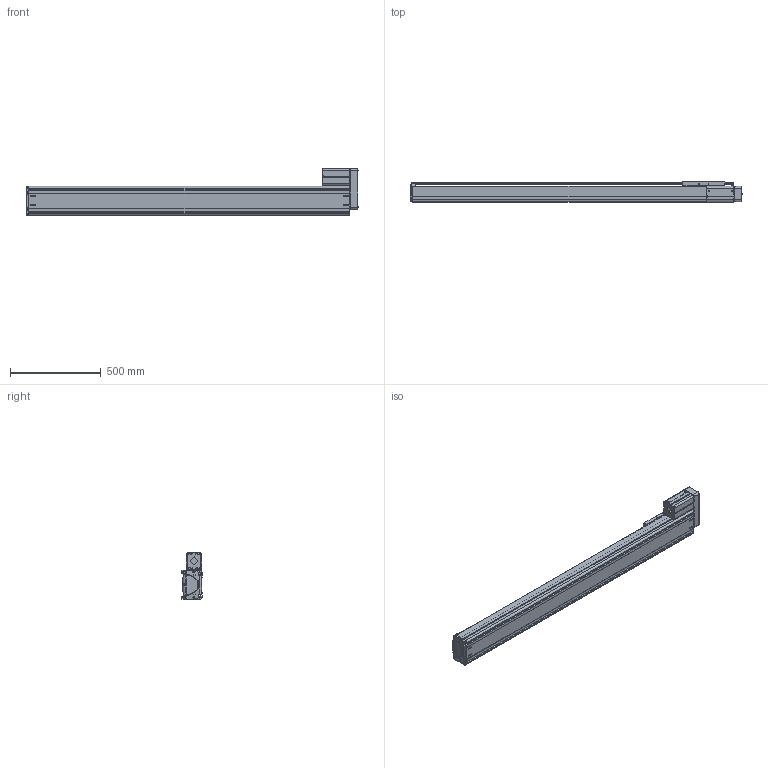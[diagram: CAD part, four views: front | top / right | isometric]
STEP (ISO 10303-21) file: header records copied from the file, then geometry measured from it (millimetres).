
FILE_DESCRIPTION((''),'2;1');
FILE_NAME('BE50F-UR-L_N-E5_IGS_PRT','2017-06-20T',('izasa.katsumi'),(''),'PRO/ENGINEER BY PARAMETRIC TECHNOLOGY CORPORATION, 2015030','PRO/ENGINEER BY PARAMETRIC TECHNOLOGY CORPORATION, 2015030','');
FILE_SCHEMA(('CONFIG_CONTROL_DESIGN'));
Length unit declared in the file: millimetre
Products named in the file (1): BE50F-UR-L_N-E5_IGS_PRT
Bounding box: 1825.88 x 110 x 257 mm (x, y, z)
Volume: 6485340.8 mm3; surface area: 2972133.1 mm2
Topology: 14 solids, 183 shells, 2388 faces, 6594 edges, 4345 vertices
Faces by surface type: cylinder 1072, plane 1022, cone 155, torus 59, bspline 48, sphere 32
Entity records: 80247 total; most frequent: CARTESIAN_POINT 18852, DIRECTION 12745, ORIENTED_EDGE 12471, EDGE_CURVE 6548, AXIS2_PLACEMENT_3D 4577, VERTEX_POINT 4341, VECTOR 3591, LINE 3591
